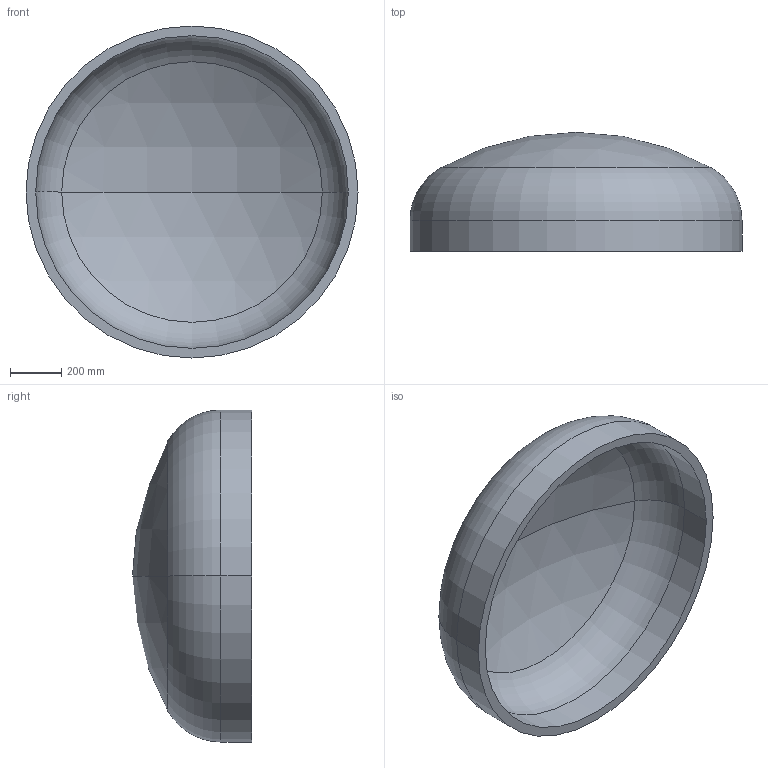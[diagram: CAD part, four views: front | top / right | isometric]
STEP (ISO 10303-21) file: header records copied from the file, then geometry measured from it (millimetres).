
FILE_DESCRIPTION (( 'STEP AP203' ), '1' );
FILE_NAME ('DIN 28013 Korbbogenform_-_Boden DIN 28013 - 1300 x 120 - I - s=38.step', '2016-07-01T09:50:32', ( '' ), ( '' ), 'SwSTEP 2.0', 'SolidWorks 2013', '' );
FILE_SCHEMA (( 'CONFIG_CONTROL_DESIGN' ));
Length unit declared in the file: millimetre
Products named in the file (1): DIN 28013 Korbbogenform_-_Boden DIN 28013 - 1300 x 120 - I - s=38
Bounding box: 1300 x 465.98 x 1300 mm (x, y, z)
Volume: 85302862.3 mm3; surface area: 4643305.6 mm2
Topology: 1 solids, 1 shells, 13 faces, 24 edges, 14 vertices
Faces by surface type: torus 4, cylinder 4, sphere 4, plane 1
Entity records: 407 total; most frequent: DIRECTION 72, CARTESIAN_POINT 52, ORIENTED_EDGE 48, AXIS2_PLACEMENT_3D 34, EDGE_CURVE 24, CIRCLE 20, VERTEX_POINT 14, EDGE_LOOP 14
